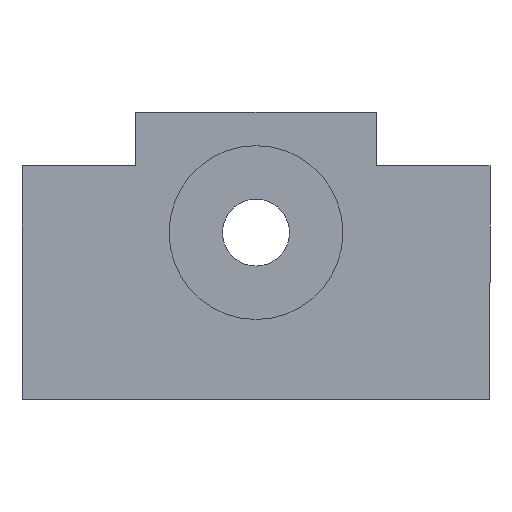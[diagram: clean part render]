
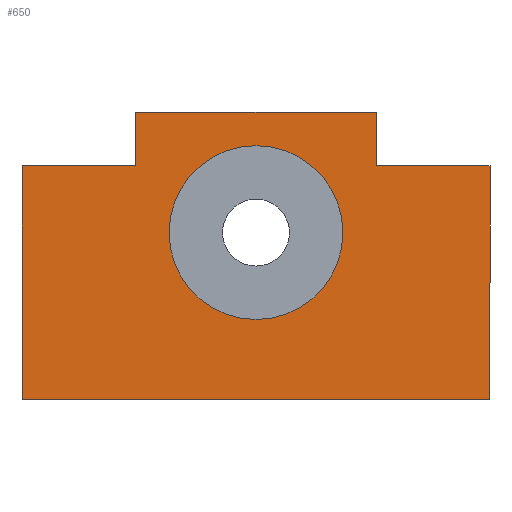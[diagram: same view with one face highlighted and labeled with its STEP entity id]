
A CAD part, left-side view. The second image highlights one B-rep face of the part: STEP entity #650.
In plain terms, the highlighted planar face has unit normal (-1, 0, 0).
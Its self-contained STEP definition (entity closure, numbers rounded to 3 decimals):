
#360=CARTESIAN_POINT('',(0.0,13.0,0.));
#361=VERTEX_POINT('',#360);
#362=CARTESIAN_POINT('',(0.0,0.0,0.0));
#363=DIRECTION('',(1.0,0.0,0.0));
#364=DIRECTION('',(0.0,-1.0,0.0));
#365=AXIS2_PLACEMENT_3D('',#362,#363,#364);
#366=CIRCLE('',#365,13.0);
#367=EDGE_CURVE('',#361,#361,#366,.T.);
#387=CARTESIAN_POINT('',(0.0,-35.0,10.));
#388=VERTEX_POINT('',#387);
#395=CARTESIAN_POINT('',(0.0,-35.,-25.));
#396=VERTEX_POINT('',#395);
#397=CARTESIAN_POINT('',(0.0,-35.0,10.));
#398=DIRECTION('',(0.0,0.0,-1.0));
#399=VECTOR('',#398,35.0);
#400=LINE('',#397,#399);
#401=EDGE_CURVE('',#388,#396,#400,.T.);
#425=CARTESIAN_POINT('',(0.0,-18.,10.));
#426=VERTEX_POINT('',#425);
#433=CARTESIAN_POINT('',(0.0,-18.,10.));
#434=DIRECTION('',(0.0,-1.0,0.0));
#435=VECTOR('',#434,17.);
#436=LINE('',#433,#435);
#437=EDGE_CURVE('',#426,#388,#436,.T.);
#459=CARTESIAN_POINT('',(0.0,-18.,18.));
#460=VERTEX_POINT('',#459);
#467=CARTESIAN_POINT('',(0.0,-18.,18.));
#468=DIRECTION('',(0.0,0.0,-1.0));
#469=VECTOR('',#468,8.);
#470=LINE('',#467,#469);
#471=EDGE_CURVE('',#460,#426,#470,.T.);
#490=CARTESIAN_POINT('',(0.0,18.,18.));
#491=VERTEX_POINT('',#490);
#498=CARTESIAN_POINT('',(0.0,18.,18.));
#499=DIRECTION('',(0.0,-1.0,0.0));
#500=VECTOR('',#499,36.);
#501=LINE('',#498,#500);
#502=EDGE_CURVE('',#491,#460,#501,.T.);
#521=CARTESIAN_POINT('',(0.0,18.,10.));
#522=VERTEX_POINT('',#521);
#529=CARTESIAN_POINT('',(0.0,18.,10.));
#530=DIRECTION('',(0.0,0.0,1.0));
#531=VECTOR('',#530,8.);
#532=LINE('',#529,#531);
#533=EDGE_CURVE('',#522,#491,#532,.T.);
#552=CARTESIAN_POINT('',(0.0,35.0,10.));
#553=VERTEX_POINT('',#552);
#560=CARTESIAN_POINT('',(0.0,35.0,10.));
#561=DIRECTION('',(0.0,-1.0,0.0));
#562=VECTOR('',#561,17.);
#563=LINE('',#560,#562);
#564=EDGE_CURVE('',#553,#522,#563,.T.);
#586=CARTESIAN_POINT('',(0.0,35.,-25.));
#587=VERTEX_POINT('',#586);
#594=CARTESIAN_POINT('',(0.0,35.,-25.));
#595=DIRECTION('',(0.0,0.0,1.0));
#596=VECTOR('',#595,35.0);
#597=LINE('',#594,#596);
#598=EDGE_CURVE('',#587,#553,#597,.T.);
#616=CARTESIAN_POINT('',(0.0,-35.,-25.));
#617=DIRECTION('',(0.0,1.0,0.0));
#618=VECTOR('',#617,70.);
#619=LINE('',#616,#618);
#620=EDGE_CURVE('',#396,#587,#619,.T.);
#632=CARTESIAN_POINT('',(0.0,0.0,-4.704));
#633=DIRECTION('',(1.0,0.0,0.0));
#634=DIRECTION('',(0.0,0.0,-1.0));
#635=AXIS2_PLACEMENT_3D('',#632,#633,#634);
#636=PLANE('',#635);
#637=ORIENTED_EDGE('',*,*,#620,.F.);
#638=ORIENTED_EDGE('',*,*,#401,.F.);
#639=ORIENTED_EDGE('',*,*,#437,.F.);
#640=ORIENTED_EDGE('',*,*,#471,.F.);
#641=ORIENTED_EDGE('',*,*,#502,.F.);
#642=ORIENTED_EDGE('',*,*,#533,.F.);
#643=ORIENTED_EDGE('',*,*,#564,.F.);
#644=ORIENTED_EDGE('',*,*,#598,.F.);
#645=EDGE_LOOP('',(#637,#638,#639,#640,#641,#642,#643,#644));
#646=FACE_OUTER_BOUND('',#645,.T.);
#647=ORIENTED_EDGE('',*,*,#367,.T.);
#648=EDGE_LOOP('',(#647));
#649=FACE_BOUND('',#648,.T.);
#650=ADVANCED_FACE('',(#646,#649),#636,.F.);
